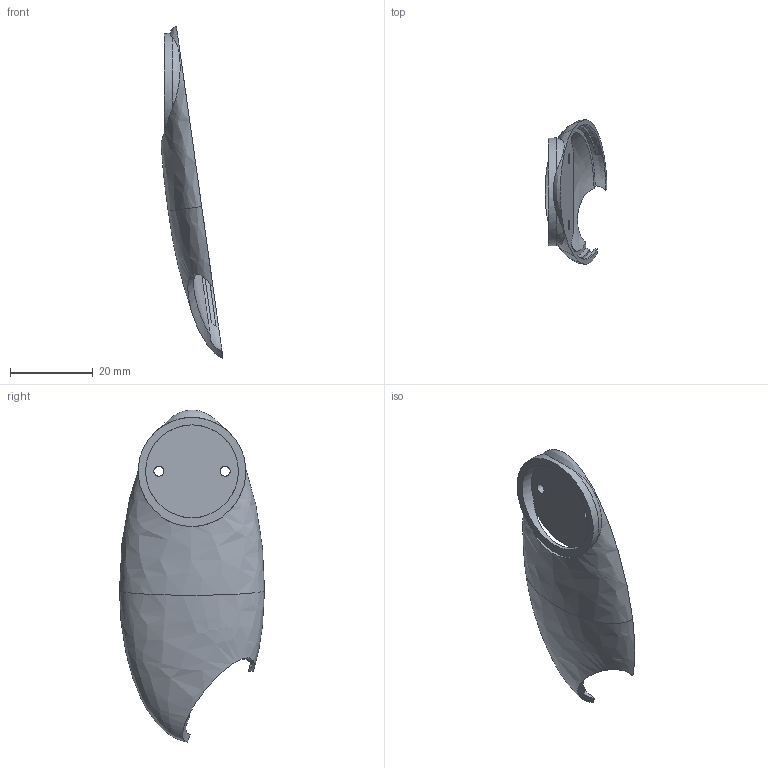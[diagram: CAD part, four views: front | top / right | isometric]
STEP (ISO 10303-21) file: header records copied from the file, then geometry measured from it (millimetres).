
FILE_DESCRIPTION(('Open CASCADE Model'),'2;1');
FILE_NAME('Open CASCADE Shape Model','2026-11-01T16:33:34',('Author'),( 'Open CASCADE'),'Open CASCADE STEP processor 8.0','build123d', 'Unknown');
FILE_SCHEMA(('AUTOMOTIVE_DESIGN { 1 0 10303 214 1 1 1 1 }'));
Length unit declared in the file: millimetre
Products named in the file (1): SOLID
Bounding box: 14.95 x 34.98 x 80.08 mm (x, y, z)
Volume: 3968.9 mm3; surface area: 5379.6 mm2
Topology: 1 solids, 1 shells, 38 faces, 110 edges, 73 vertices
Faces by surface type: bspline 17, plane 11, cylinder 8, revolution 2
Full cylindrical faces by diameter (mm): 2.4 x2, 22.4 x1
Entity records: 23721 total; most frequent: CARTESIAN_POINT 22082, B_SPLINE_CURVE_WITH_KNOTS 253, ORIENTED_EDGE 218, PCURVE 218, DEFINITIONAL_REPRESENTATION 218, DIRECTION 129, EDGE_CURVE 109, SURFACE_CURVE 106
